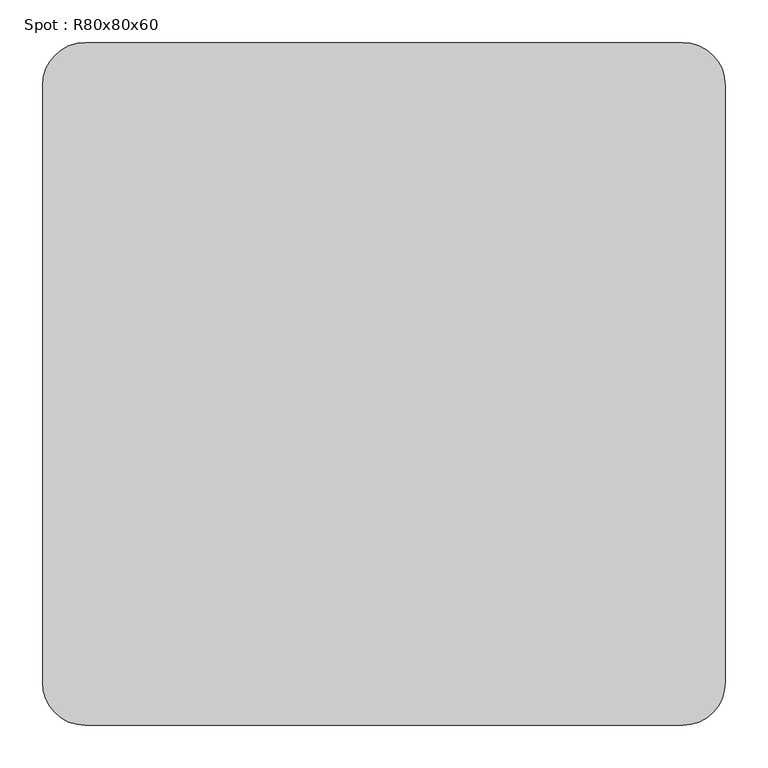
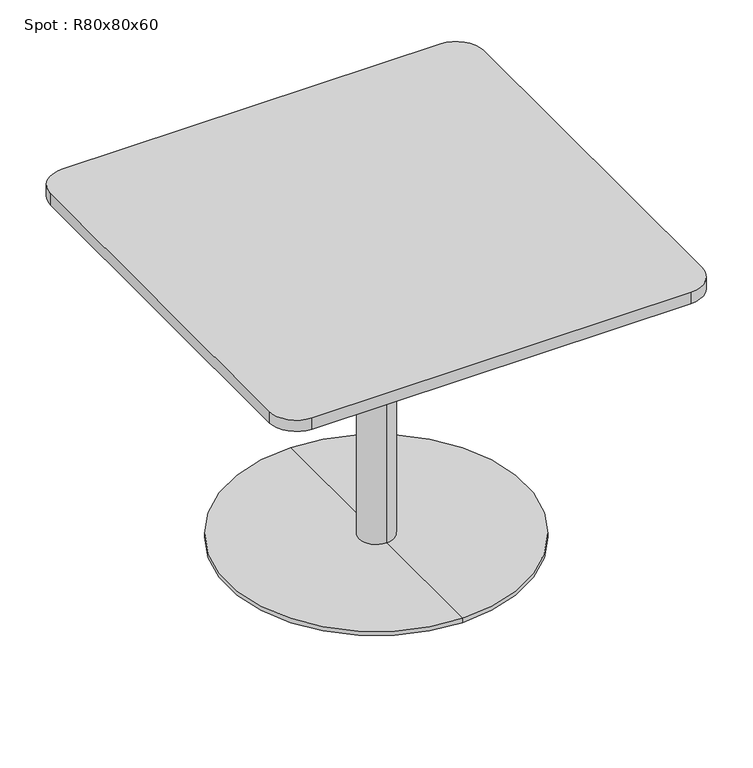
"""IFC4 building model written with IfcOpenShell, lengths in millimetres: furniture geometry, Spot : R80x80x60."""

import ifcopenshell
import ifcopenshell.guid

model = None  # the IFC model being written
_history = None  # IfcOwnerHistory: only IFC2X3 demands one
_inside = {}  # id of a spatial element -> (the spatial element, [elements in it])
_under = {}  # id of a project, library or spatial element -> (it, [spatial elements below it])
_declared = {}  # id of a project -> (the project, [libraries it declares])
_typed = {}  # id of a type object -> (the type object, [elements of that type])
_made_of = {}  # id of a material, layer set ... -> (it, [elements and type objects made of it])


def new_model(schema):
    """Start an empty IFC model of exactly this schema.

    Asked for "IFC4X3", IfcOpenShell would pick the latest addendum, in which some entities
    have other attributes; the version numbers below select the first issue.
    IFC2X3 requires an IfcOwnerHistory on every rooted entity: one is made here for all.
    """
    global model, _history
    if schema == "IFC4X3":
        model = ifcopenshell.file(schema_version=(4, 3, 0, 0))
    else:
        model = ifcopenshell.file(schema=schema)
    _inside.clear()
    _under.clear()
    _declared.clear()
    _typed.clear()
    _made_of.clear()
    _history = None
    if model.schema == "IFC2X3":
        org = make("IfcOrganization", Name="unknown")
        user = make(
            "IfcPersonAndOrganization",
            ThePerson=make("IfcPerson", FamilyName="unknown"),
            TheOrganization=org,
        )
        app = make(
            "IfcApplication",
            ApplicationDeveloper=org,
            Version="unknown",
            ApplicationFullName="unknown",
            ApplicationIdentifier="unknown",
        )
        _history = make(
            "IfcOwnerHistory",
            OwningUser=user,
            OwningApplication=app,
            ChangeAction="ADDED",
            CreationDate=0,
        )
    return model


def make(cls, **values):
    """One entity of the class cls with the attributes given. An attribute that is None is left unset."""
    return model.create_entity(
        cls, **{name: value for name, value in values.items() if value is not None}
    )


def rooted(cls, **values):
    """An entity with a GlobalId (a new one), such as an element, a storey or a relation."""
    return make(cls, GlobalId=ifcopenshell.guid.new(), OwnerHistory=_history, **values)


def si_unit(unit_type, name, prefix=None):
    """IfcSIUnit, for example si_unit("LENGTHUNIT", "METRE", prefix="MILLI")."""
    return make("IfcSIUnit", UnitType=unit_type, Prefix=prefix, Name=name)


def assignment(units):
    """IfcUnitAssignment: the units of a project."""
    return None if units is None else make("IfcUnitAssignment", Units=units)


def point(xyz):
    """IfcCartesianPoint."""
    return None if xyz is None else make("IfcCartesianPoint", Coordinates=xyz)


def direction(xyz):
    """IfcDirection."""
    return None if xyz is None else make("IfcDirection", DirectionRatios=xyz)


def frame(location, z_axis=None, x_axis=None):
    """IfcAxis2Placement3D, a coordinate frame: its origin and axes. An axis left out is left unset."""
    return make(
        "IfcAxis2Placement3D",
        Location=point(location),
        Axis=direction(z_axis),
        RefDirection=direction(x_axis),
    )


def frame_2d(location, x_axis=None):
    """IfcAxis2Placement2D, a coordinate frame in the plane: its origin and x axis."""
    return make(
        "IfcAxis2Placement2D", Location=point(location), RefDirection=direction(x_axis)
    )


def origin():
    """The frame at (0, 0, 0) with its axes left unset."""
    return frame((0.0, 0.0, 0.0))


def place(relative_to, where):
    """IfcLocalPlacement: puts the frame where relative to a parent placement (None: the world)."""
    return make(
        "IfcLocalPlacement", PlacementRelTo=relative_to, RelativePlacement=where
    )


def context(
    kind, dimensions, precision=None, world=None, true_north=None, identifier=None
):
    """IfcGeometricRepresentationContext, for example the 3D "Model" context."""
    return make(
        "IfcGeometricRepresentationContext",
        ContextIdentifier=identifier,
        ContextType=kind,
        CoordinateSpaceDimension=dimensions,
        Precision=precision,
        WorldCoordinateSystem=world,
        TrueNorth=true_north,
    )


def project(units=None, contexts=None):
    """IfcProject with its units and contexts."""
    return rooted(
        "IfcProject",
        Name="project",
        RepresentationContexts=contexts,
        UnitsInContext=assignment(units),
    )


def spatial(cls, under=None, at=None, **own):
    """A site, building, storey or space (cls), placed at a placement, below another one or the project."""
    s = rooted(cls, ObjectPlacement=at, **own)
    if under is not None:
        _under.setdefault(under.id(), (under, []))[1].append(s)
    return s


def polyline(points):
    """IfcPolyline through the points."""
    return make("IfcPolyline", Points=[point(p) for p in points])


def circle_curve(where, radius):
    """IfcCircle in the frame where."""
    return make("IfcCircle", Position=where, Radius=radius)


def trimmed(basis, trim1, trim2, sense, master):
    """IfcTrimmedCurve: the piece of a basis curve between two trims."""
    return make(
        "IfcTrimmedCurve",
        BasisCurve=basis,
        Trim1=trim1,
        Trim2=trim2,
        SenseAgreement=sense,
        MasterRepresentation=master,
    )


def segment(curve, same_sense, transition):
    """IfcCompositeCurveSegment."""
    return make(
        "IfcCompositeCurveSegment",
        Transition=transition,
        SameSense=same_sense,
        ParentCurve=curve,
    )


def composite_curve(segments, self_intersect=None):
    """IfcCompositeCurve: segments joined end to end."""
    return make("IfcCompositeCurve", Segments=segments, SelfIntersect=self_intersect)


def outline(outer, holes=None, kind="AREA"):
    """IfcArbitraryClosedProfileDef: a profile drawn as a closed curve; with holes, ...WithVoids."""
    if holes is None:
        return make("IfcArbitraryClosedProfileDef", ProfileType=kind, OuterCurve=outer)
    return make(
        "IfcArbitraryProfileDefWithVoids",
        ProfileType=kind,
        OuterCurve=outer,
        InnerCurves=holes,
    )


def extrude(swept, where, along, depth):
    """IfcExtrudedAreaSolid: the profile swept, set in the frame where, extruded along a direction by depth."""
    return make(
        "IfcExtrudedAreaSolid",
        SweptArea=swept,
        Position=where,
        ExtrudedDirection=direction(along),
        Depth=depth,
    )


def shape(context_of_items, identifier, shape_type, items):
    """IfcShapeRepresentation: the items that make up one representation, for example the "Body"."""
    return make(
        "IfcShapeRepresentation",
        ContextOfItems=context_of_items,
        RepresentationIdentifier=identifier,
        RepresentationType=shape_type,
        Items=items,
    )


def source(mapping_origin, context_of_items, identifier, shape_type, items):
    """IfcRepresentationMap: a shape defined once, which mapped items show again and again."""
    return make(
        "IfcRepresentationMap",
        MappingOrigin=mapping_origin,
        MappedRepresentation=shape(context_of_items, identifier, shape_type, items),
    )


def transform(
    local_origin,
    x_axis=None,
    y_axis=None,
    z_axis=None,
    scale=None,
    scale2=None,
    scale3=None,
    uniform=True,
):
    """IfcCartesianTransformationOperator3D, or its non-uniform kind. x_axis, y_axis, z_axis: its Axis1, 2, 3."""
    if uniform:
        return make(
            "IfcCartesianTransformationOperator3D",
            Axis1=direction(x_axis),
            Axis2=direction(y_axis),
            LocalOrigin=point(local_origin),
            Scale=scale,
            Axis3=direction(z_axis),
        )
    return make(
        "IfcCartesianTransformationOperator3DnonUniform",
        Axis1=direction(x_axis),
        Axis2=direction(y_axis),
        LocalOrigin=point(local_origin),
        Scale=scale,
        Axis3=direction(z_axis),
        Scale2=scale2,
        Scale3=scale3,
    )


def mapped(mapping_source, mapping_target):
    """IfcMappedItem: shows the shape of a source again, moved by a transform."""
    return make(
        "IfcMappedItem", MappingSource=mapping_source, MappingTarget=mapping_target
    )


def made_of(thing, what):
    """Note that an element or type object is made of a material, layer set ...; save() writes the relation."""
    if what is not None:
        _made_of.setdefault(what.id(), (what, []))[1].append(thing)
    return thing


def element(
    cls,
    number,
    at=None,
    inside=None,
    cuts=None,
    type_object=None,
    material=None,
    context=None,
    identifier="Body",
    shape_type=None,
    held_by="IfcProductDefinitionShape",
    body=None,
    shapes=None,
    **own,
):
    """One element of the class cls, such as IfcWall. Its Tag is "e" and its number.

    at: its placement. inside: the storey or other place that contains it. cuts: it is an
    opening in that element (IfcRelVoidsElement). A single representation is given by context,
    identifier, shape_type and body (its items); several are given by shapes. held_by: the class
    of the entity that holds the representations. save() writes the other relations.
    """
    e = rooted(cls, Tag="e%d" % number, ObjectPlacement=at, **own)
    if body is not None:
        shapes = [shape(context, identifier, shape_type, body)]
    if shapes is not None:
        e.Representation = make(held_by, Representations=shapes)
    if inside is not None:
        _inside.setdefault(inside.id(), (inside, []))[1].append(e)
    if cuts is not None:
        rooted(
            "IfcRelVoidsElement", RelatingBuildingElement=cuts, RelatedOpeningElement=e
        )
    if type_object is not None:
        _typed.setdefault(type_object.id(), (type_object, []))[1].append(e)
    return made_of(e, material)


def aggregate(whole, parts):
    """IfcRelAggregates: a whole, such as a stair, and the parts it consists of."""
    return rooted("IfcRelAggregates", RelatingObject=whole, RelatedObjects=parts)


def save(model, path):
    """Write the relations noted so far, then the file.

    IfcRelAggregates (storeys below a building ...), IfcRelContainedInSpatialStructure (elements
    in a storey), IfcRelDefinesByType, IfcRelAssociatesMaterial and IfcRelDeclares: one each for
    every whole, place, type object, material and project.
    """
    for whole, parts in _under.values():
        aggregate(whole, parts)
    for where, things in _inside.values():
        rooted(
            "IfcRelContainedInSpatialStructure",
            RelatedElements=things,
            RelatingStructure=where,
        )
    for kind, things in _typed.values():
        rooted("IfcRelDefinesByType", RelatedObjects=things, RelatingType=kind)
    for what, things in _made_of.values():
        rooted("IfcRelAssociatesMaterial", RelatedObjects=things, RelatingMaterial=what)
    for by, libraries in _declared.values():
        rooted("IfcRelDeclares", RelatingContext=by, RelatedDefinitions=libraries)
    model.write(path)


def plane_surface(at):
    """IfcPlane: the flat surface through the origin of the frame at, square to its z axis."""
    return make("IfcPlane", Position=at)


def cylinder_surface(at, radius):
    """IfcCylindricalSurface: all points at the distance radius from the z axis of the frame at."""
    return make("IfcCylindricalSurface", Position=at, Radius=radius)


def revolved_surface(curve, axis_point, axis_direction):
    """IfcSurfaceOfRevolution: the curve turned about the line through axis_point along axis_direction."""
    return make(
        "IfcSurfaceOfRevolution",
        SweptCurve=make("IfcArbitraryOpenProfileDef", ProfileType="CURVE", Curve=curve),
        AxisPosition=make("IfcAxis1Placement", Location=point(axis_point), Axis=direction(axis_direction)),
    )


def advanced_brep(points, edges, surfaces, faces):
    """IfcAdvancedBrep: a solid bounded by faces that lie on surfaces and meet in shared edges.

    An edge is (start, end): straight between two places in points (the first is 0);
    or (start, end, curve); or (start, end, curve, False) where it runs against its curve.
    A face is (place in surfaces, loops), or (place, loops, False) where it looks against
    its surface's normal. A loop lists edges by number (the first is 1), with a minus sign
    where the edge is run from its end to its start. The first loop is the outer one.
    """
    corners = [point(p) for p in points]
    vertices = [make("IfcVertexPoint", VertexGeometry=c) for c in corners]
    made = []
    for start, end, *more in edges:
        made.append(
            make(
                "IfcEdgeCurve",
                EdgeStart=vertices[start],
                EdgeEnd=vertices[end],
                EdgeGeometry=more[0] if more else make("IfcPolyline", Points=[corners[start], corners[end]]),
                SameSense=more[1] if len(more) > 1 else True,
            )
        )
    hull = []
    for where, loops, *sense in faces:
        bounds = []
        for j, loop in enumerate(loops):
            ring = [make("IfcOrientedEdge", EdgeElement=made[abs(k) - 1], Orientation=k > 0) for k in loop]
            bounds.append(
                make(
                    "IfcFaceOuterBound" if j == 0 else "IfcFaceBound",
                    Bound=make("IfcEdgeLoop", EdgeList=ring),
                    Orientation=True,
                )
            )
        hull.append(make("IfcAdvancedFace", Bounds=bounds, FaceSurface=surfaces[where], SameSense=sense[0] if sense else True))
    return make("IfcAdvancedBrep", Outer=make("IfcClosedShell", CfsFaces=hull))


def spot_r80x80x60_7e8cd580(model_context):
    return source(origin(), model_context, "Body", "SolidModel", [
        extrude(outline(composite_curve([segment(trimmed(circle_curve(frame_2d((350.0, 350.0)), 50.0), [point((350.0, 400.0))], [point((400.0, 350.0))], False, "CARTESIAN"), True, "CONTINUOUS"), segment(polyline([(400.0, 350.0), (400.0, -350.0)]), True, "CONTINUOUS"), segment(trimmed(circle_curve(frame_2d((350.0, -350.0)), 50.0), [point((400.0, -350.0))], [point((350.0, -400.0))], False, "CARTESIAN"), True, "CONTINUOUS"), segment(polyline([(350.0, -400.0), (-350.0, -400.0)]), True, "CONTINUOUS"), segment(trimmed(circle_curve(frame_2d((-350.0, -350.0)), 50.0), [point((-350.0, -400.0))], [point((-400.0, -350.0))], False, "CARTESIAN"), True, "CONTINUOUS"), segment(polyline([(-400.0, -350.0), (-400.0, 350.0)]), True, "CONTINUOUS"), segment(trimmed(circle_curve(frame_2d((-350.0, 350.0)), 50.0), [point((-400.0, 350.0))], [point((-350.0, 400.0))], False, "CARTESIAN"), True, "CONTINUOUS"), segment(polyline([(-350.0, 400.0), (350.0, 400.0)]), True, "CONTINUOUS")], self_intersect=False)), frame((0.0, 0.0, 578.0), z_axis=(0.0, 0.0, 1.0), x_axis=(1.0, 0.0, 0.0)), (0.0, 0.0, 1.0), 22.0),
        advanced_brep(
        [(0.0, 32.0, 10.0), (0.0, -32.0, 10.0), (0.0, -32.0, 547.406916), (0.0, 32.0, 547.406916), (0.0, 275.0, 10.0), (0.0, -275.0, 10.0), (0.0, 275.0, 2.0), (0.0, -275.0, 2.0), (0.0, 0.0, 2.0), (0.0, 150.0, 578.0), (0.0, -150.0, 578.0), (0.0, 0.0, 578.0), (0.0, 150.0, 566.7213673), (0.0, -150.0, 566.7213673)],
        [
            (0, 1, circle_curve(frame((0.0, 0.0, 10.0), z_axis=(0.0, 0.0, 1.0), x_axis=(0.0, -1.0, 0.0)), 32.0)),
            (1, 2),
            (2, 3, circle_curve(frame((0.0, 0.0, 547.406916), z_axis=(0.0, 0.0, -1.0), x_axis=(0.0, -1.0, 0.0)), 32.0)),
            (3, 0),
            (1, 0, circle_curve(frame((0.0, 0.0, 10.0), z_axis=(0.0, 0.0, 1.0), x_axis=(0.0, -1.0, 0.0)), 32.0)),
            (3, 2, circle_curve(frame((0.0, 0.0, 547.406916), z_axis=(0.0, 0.0, -1.0), x_axis=(0.0, -1.0, 0.0)), 32.0)),
            (4, 5, circle_curve(frame((0.0, 0.0, 10.0), z_axis=(0.0, 0.0, 1.0), x_axis=(0.0, -1.0, 0.0)), 275.0)),
            (5, 1),
            (0, 4),
            (5, 4, circle_curve(frame((0.0, 0.0, 10.0), z_axis=(0.0, 0.0, 1.0), x_axis=(0.0, -1.0, 0.0)), 275.0)),
            (6, 7, circle_curve(frame((0.0, 0.0, 2.0), z_axis=(0.0, 0.0, 1.0), x_axis=(0.0, -1.0, 0.0)), 275.0)),
            (7, 5),
            (4, 6),
            (7, 6, circle_curve(frame((0.0, 0.0, 2.0), z_axis=(0.0, 0.0, 1.0), x_axis=(0.0, -1.0, 0.0)), 275.0)),
            (8, 7),
            (6, 8),
            (9, 10, circle_curve(frame((0.0, 0.0, 578.0), z_axis=(0.0, 0.0, 1.0), x_axis=(0.0, -1.0, 0.0)), 150.0)),
            (10, 11),
            (11, 9),
            (10, 9, circle_curve(frame((0.0, 0.0, 578.0), z_axis=(0.0, 0.0, 1.0), x_axis=(0.0, -1.0, 0.0)), 150.0)),
            (12, 13, circle_curve(frame((0.0, 0.0, 566.7213673), z_axis=(0.0, 0.0, 1.0), x_axis=(0.0, -1.0, 0.0)), 150.0)),
            (13, 10),
            (9, 12),
            (13, 12, circle_curve(frame((0.0, 0.0, 566.7213673), z_axis=(0.0, 0.0, 1.0), x_axis=(0.0, -1.0, 0.0)), 150.0)),
            (2, 13),
            (12, 3),
        ],
        [
            cylinder_surface(frame((0.0, 0.0, 940.0), z_axis=(0.0, 0.0, -1.0), x_axis=(0.0, -1.0, 0.0)), 32.0),
            plane_surface(frame((0.0, 0.0, 10.0), z_axis=(0.0, 0.0, 1.0), x_axis=(0.0, -1.0, 0.0))),
            cylinder_surface(frame((0.0, 0.0, 940.0), z_axis=(0.0, 0.0, -1.0), x_axis=(0.0, -1.0, 0.0)), 275.0),
            plane_surface(frame((0.0, 0.0, 2.0), z_axis=(0.0, 0.0, -1.0), x_axis=(0.0, -1.0, 0.0))),
            plane_surface(frame((0.0, 0.0, 578.0), z_axis=(0.0, 0.0, 1.0), x_axis=(0.0, -1.0, 0.0))),
            cylinder_surface(frame((0.0, 0.0, 940.0), z_axis=(0.0, 0.0, -1.0), x_axis=(0.0, -1.0, 0.0)), 150.0),
            revolved_surface(polyline([(0.0, -150.0, 566.7213673), (0.0, -32.0, 547.406916)]), (0.0, 0.0, 940.0), (0.0, 0.0, -1.0)),
        ],
        [
            (0, [[1, 2, 3, 4]]),
            (0, [[5, -4, 6, -2]]),
            (1, [[7, 8, -1, 9]]),
            (1, [[10, -9, -5, -8]]),
            (2, [[11, 12, -7, 13]]),
            (2, [[14, -13, -10, -12]]),
            (3, [[15, -11, 16]]),
            (3, [[-16, -14, -15]]),
            (4, [[17, 18, 19]]),
            (4, [[20, -19, -18]]),
            (5, [[21, 22, -17, 23]]),
            (5, [[24, -23, -20, -22]]),
            (6, [[-3, 25, -21, 26]]),
            (6, [[-6, -26, -24, -25]]),
        ],
    ),
    ])


if __name__ == "__main__":
    model = new_model("IFC4")
    model_context = context("Model", 3, world=origin())
    ifc_project = project(units=[si_unit("LENGTHUNIT", "METRE", prefix="MILLI")], contexts=[model_context])
    site = spatial("IfcSite", under=ifc_project)
    building = spatial("IfcBuilding", under=site)
    placement = place(None, origin())
    spot_r80x80x60_shape = spot_r80x80x60_7e8cd580(model_context)
    element("IfcFurniture", 1, ObjectType="Spot : R80x80x60", at=placement, inside=building, context=model_context, shape_type="MappedRepresentation", body=[
        mapped(spot_r80x80x60_shape, transform((0.0, 0.0, 0.0), x_axis=(1.0, 0.0, 0.0), y_axis=(0.0, 1.0, 0.0), z_axis=(0.0, 0.0, 1.0))),
    ])
    save(model, "model.ifc")
